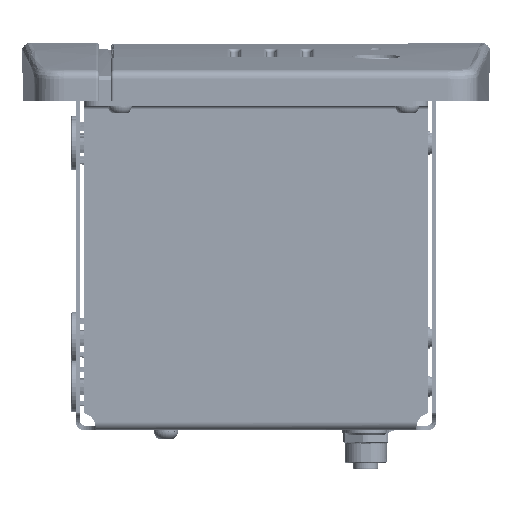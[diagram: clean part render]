
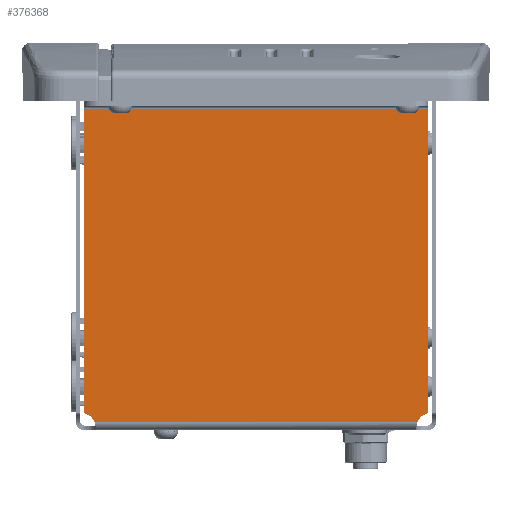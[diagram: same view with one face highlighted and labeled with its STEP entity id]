
A CAD part, left-side view. The second image highlights one B-rep face of the part: STEP entity #376368.
In plain terms, the highlighted planar face has unit normal (-1, 0, 0).
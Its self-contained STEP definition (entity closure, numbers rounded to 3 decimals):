
#1969 = ORIENTED_EDGE ( 'NONE', *, *, #580279, .F. ) ;
#7744 = PLANE ( 'NONE',  #375289 ) ;
#10236 = DIRECTION ( 'NONE',  ( 0., 0., 1. ) ) ;
#23081 = ORIENTED_EDGE ( 'NONE', *, *, #304481, .T. ) ;
#43320 = DIRECTION ( 'NONE',  ( 1., 0., 0. ) ) ;
#53959 = VECTOR ( 'NONE', #10236, 1000. ) ;
#74660 = CARTESIAN_POINT ( 'NONE',  ( -132., 2.75, 1380. ) ) ;
#92069 = VECTOR ( 'NONE', #519953, 1000. ) ;
#135205 = CARTESIAN_POINT ( 'NONE',  ( -132., 106.75, 57.323 ) ) ;
#148584 = AXIS2_PLACEMENT_3D ( 'NONE', #481693, #241634, #585182 ) ;
#231814 = EDGE_CURVE ( 'NONE', #244640, #604535, #643501, .T. ) ;
#239250 = LINE ( 'NONE', #575500, #53959 ) ;
#241634 = DIRECTION ( 'NONE',  ( 1., 0., 0. ) ) ;
#244640 = VERTEX_POINT ( 'NONE', #679509 ) ;
#255560 = DIRECTION ( 'NONE',  ( 0., 0., -1. ) ) ;
#293502 = EDGE_LOOP ( 'NONE', ( #446335, #711988, #725574, #23081, #441491, #1969 ) ) ;
#304481 = EDGE_CURVE ( 'NONE', #244640, #532387, #612235, .T. ) ;
#375289 = AXIS2_PLACEMENT_3D ( 'NONE', #424109, #43320, #649401 ) ;
#376368 = ADVANCED_FACE ( 'NONE', ( #514008 ), #7744, .F. ) ;
#394813 = DIRECTION ( 'NONE',  ( 1., 0., 0. ) ) ;
#397085 = VECTOR ( 'NONE', #255560, 1000. ) ;
#424109 = CARTESIAN_POINT ( 'NONE',  ( -132., 109.5, 1380. ) ) ;
#431777 = CARTESIAN_POINT ( 'NONE',  ( -132., 2.75, -53.771 ) ) ;
#441491 = ORIENTED_EDGE ( 'NONE', *, *, #510783, .F. ) ;
#446335 = ORIENTED_EDGE ( 'NONE', *, *, #463491, .T. ) ;
#453885 = LINE ( 'NONE', #564749, #713985 ) ;
#463491 = EDGE_CURVE ( 'NONE', #619700, #467065, #689807, .T. ) ;
#467065 = VERTEX_POINT ( 'NONE', #697267 ) ;
#477344 = CARTESIAN_POINT ( 'NONE',  ( -132., 106.75, -57.323 ) ) ;
#479299 = CIRCLE ( 'NONE', #148584, 5. ) ;
#481693 = CARTESIAN_POINT ( 'NONE',  ( -132., 0.682, -58.323 ) ) ;
#501412 = EDGE_CURVE ( 'NONE', #467065, #604535, #479299, .T. ) ;
#510783 = EDGE_CURVE ( 'NONE', #546244, #532387, #453885, .T. ) ;
#514008 = FACE_OUTER_BOUND ( 'NONE', #293502, .T. ) ;
#516598 = DIRECTION ( 'NONE',  ( 0., -1., 0. ) ) ;
#519953 = DIRECTION ( 'NONE',  ( 0., -1., 0. ) ) ;
#532387 = VERTEX_POINT ( 'NONE', #621279 ) ;
#546244 = VERTEX_POINT ( 'NONE', #135205 ) ;
#564749 = CARTESIAN_POINT ( 'NONE',  ( -132., 148.154, 57.323 ) ) ;
#575500 = CARTESIAN_POINT ( 'NONE',  ( -132., 106.75, -58.323 ) ) ;
#580279 = EDGE_CURVE ( 'NONE', #619700, #546244, #239250, .T. ) ;
#585182 = DIRECTION ( 'NONE',  ( 0., 1., 0. ) ) ;
#604535 = VERTEX_POINT ( 'NONE', #431777 ) ;
#612235 = CIRCLE ( 'NONE', #624296, 5. ) ;
#619700 = VERTEX_POINT ( 'NONE', #477344 ) ;
#621279 = CARTESIAN_POINT ( 'NONE',  ( -132., 5.581, 57.323 ) ) ;
#624296 = AXIS2_PLACEMENT_3D ( 'NONE', #675567, #394813, #679179 ) ;
#643501 = LINE ( 'NONE', #74660, #397085 ) ;
#649401 = DIRECTION ( 'NONE',  ( 0., -1., 0. ) ) ;
#675567 = CARTESIAN_POINT ( 'NONE',  ( -132., 0.682, 58.323 ) ) ;
#678861 = CARTESIAN_POINT ( 'NONE',  ( -132., 109.5, -57.323 ) ) ;
#679179 = DIRECTION ( 'NONE',  ( 0., 1., 0. ) ) ;
#679509 = CARTESIAN_POINT ( 'NONE',  ( -132., 2.75, 53.771 ) ) ;
#689807 = LINE ( 'NONE', #678861, #92069 ) ;
#697267 = CARTESIAN_POINT ( 'NONE',  ( -132., 5.581, -57.323 ) ) ;
#711988 = ORIENTED_EDGE ( 'NONE', *, *, #501412, .T. ) ;
#713985 = VECTOR ( 'NONE', #516598, 1000. ) ;
#725574 = ORIENTED_EDGE ( 'NONE', *, *, #231814, .F. ) ;
